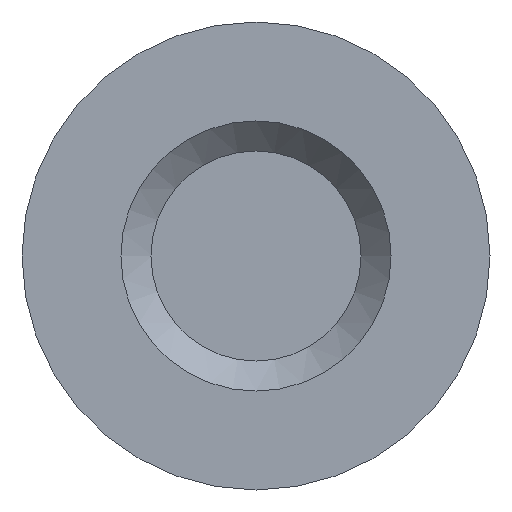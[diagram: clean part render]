
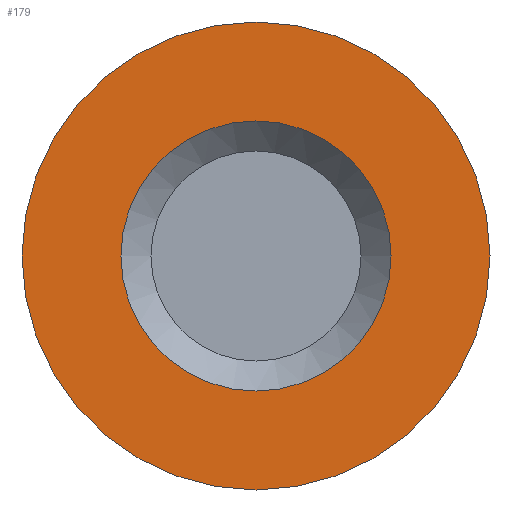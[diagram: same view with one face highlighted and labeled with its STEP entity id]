
A CAD part, left-side view. The second image highlights one B-rep face of the part: STEP entity #179.
In plain terms, the highlighted planar face has unit normal (-1, 0, 0).
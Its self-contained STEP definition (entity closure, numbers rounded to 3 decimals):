
#15=PLANE($,#205);
#28=FACE_BOUND($,#65,.T.);
#44=FACE_OUTER_BOUND($,#64,.T.);
#64=EDGE_LOOP($,(#144));
#65=EDGE_LOOP($,(#145));
#91=CIRCLE($,#204,1.143);
#92=CIRCLE($,#206,1.98);
#107=VERTEX_POINT($,#311);
#108=VERTEX_POINT($,#314);
#123=EDGE_CURVE($,#107,#107,#91,.T.);
#124=EDGE_CURVE($,#108,#108,#92,.T.);
#144=ORIENTED_EDGE($,*,*,#124,.F.);
#145=ORIENTED_EDGE($,*,*,#123,.T.);
#179=ADVANCED_FACE($,(#44,#28),#15,.T.);
#204=AXIS2_PLACEMENT_3D($,#312,#249,#250);
#205=AXIS2_PLACEMENT_3D($,#313,#251,#252);
#206=AXIS2_PLACEMENT_3D($,#315,#253,#254);
#249=DIRECTION('center_axis',(1.,0.,0.));
#250=DIRECTION('ref_axis',(0.,1.,0.));
#251=DIRECTION('center_axis',(-1.,0.,0.));
#252=DIRECTION('ref_axis',(0.,0.,1.));
#253=DIRECTION('center_axis',(1.,0.,0.));
#254=DIRECTION('ref_axis',(0.,1.,0.));
#311=CARTESIAN_POINT('',(5.255,1.143,0.));
#312=CARTESIAN_POINT('Origin',(5.255,0.,0.));
#313=CARTESIAN_POINT('Origin',(5.255,1.562,0.));
#314=CARTESIAN_POINT('',(5.255,1.98,0.));
#315=CARTESIAN_POINT('Origin',(5.255,0.,0.));
